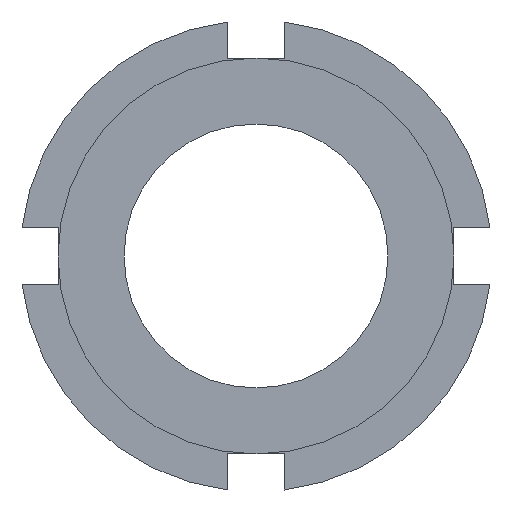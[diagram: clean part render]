
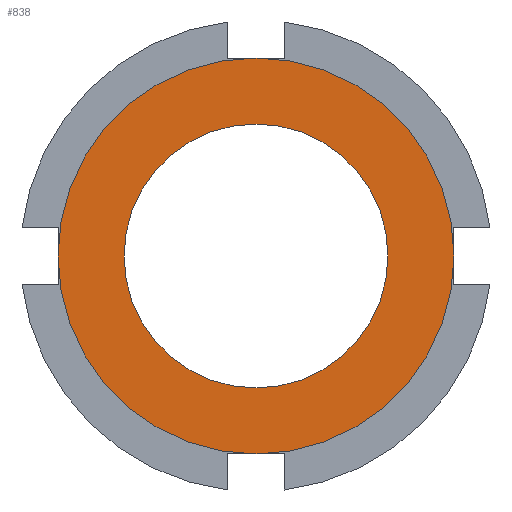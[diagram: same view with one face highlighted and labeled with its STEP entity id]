
A CAD part, left-side view. The second image highlights one B-rep face of the part: STEP entity #838.
In plain terms, the highlighted planar face has unit normal (-1, 0, 0).
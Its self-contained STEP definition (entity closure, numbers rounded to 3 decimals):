
#20 = ORIENTED_EDGE ( 'NONE', *, *, #238, .T. ) ;
#48 = VERTEX_POINT ( 'NONE', #440 ) ;
#49 = EDGE_LOOP ( 'NONE', ( #20, #789 ) ) ;
#81 = CIRCLE ( 'NONE', #82, 7. ) ;
#82 = AXIS2_PLACEMENT_3D ( 'NONE', #83, #84, #85 ) ;
#83 = CARTESIAN_POINT ( 'NONE',  ( 0., 0., 0. ) ) ;
#84 = DIRECTION ( 'NONE',  ( -1., 0., 0. ) ) ;
#85 = DIRECTION ( 'NONE',  ( 0., 0., 1. ) ) ;
#155 = FACE_BOUND ( 'NONE', #826, .T. ) ;
#156 = FACE_OUTER_BOUND ( 'NONE', #49, .T. ) ;
#157 = PLANE ( 'NONE',  #158 ) ;
#158 = AXIS2_PLACEMENT_3D ( 'NONE', #159, #160, #163 ) ;
#159 = CARTESIAN_POINT ( 'NONE',  ( 0., 7., 0. ) ) ;
#160 = DIRECTION ( 'NONE',  ( 1., 0., 0. ) ) ;
#163 = DIRECTION ( 'NONE',  ( 0., 0., -1. ) ) ;
#217 = CIRCLE ( 'NONE', #222, 7. ) ;
#222 = AXIS2_PLACEMENT_3D ( 'NONE', #223, #224, #225 ) ;
#223 = CARTESIAN_POINT ( 'NONE',  ( 0., 0., 0. ) ) ;
#224 = DIRECTION ( 'NONE',  ( -1., 0., 0. ) ) ;
#225 = DIRECTION ( 'NONE',  ( 0., 0., 1. ) ) ;
#238 = EDGE_CURVE ( 'NONE', #48, #757, #555, .T. ) ;
#256 = ORIENTED_EDGE ( 'NONE', *, *, #469, .F. ) ;
#257 = VERTEX_POINT ( 'NONE', #567 ) ;
#387 = CIRCLE ( 'NONE', #388, 10.5 ) ;
#388 = AXIS2_PLACEMENT_3D ( 'NONE', #389, #390, #391 ) ;
#389 = CARTESIAN_POINT ( 'NONE',  ( 0., 0., 0. ) ) ;
#390 = DIRECTION ( 'NONE',  ( -1., 0., 0. ) ) ;
#391 = DIRECTION ( 'NONE',  ( 0., 0., 1. ) ) ;
#414 = CARTESIAN_POINT ( 'NONE',  ( 0., 0., -10.5 ) ) ;
#440 = CARTESIAN_POINT ( 'NONE',  ( 0., 0., 10.5 ) ) ;
#469 = EDGE_CURVE ( 'NONE', #787, #257, #81, .T. ) ;
#508 = CARTESIAN_POINT ( 'NONE',  ( 0., 0., -7. ) ) ;
#555 = CIRCLE ( 'NONE', #556, 10.5 ) ;
#556 = AXIS2_PLACEMENT_3D ( 'NONE', #557, #558, #559 ) ;
#557 = CARTESIAN_POINT ( 'NONE',  ( 0., 0., 0. ) ) ;
#558 = DIRECTION ( 'NONE',  ( -1., 0., 0. ) ) ;
#559 = DIRECTION ( 'NONE',  ( 0., 0., 1. ) ) ;
#567 = CARTESIAN_POINT ( 'NONE',  ( 0., 0., 7. ) ) ;
#710 = EDGE_CURVE ( 'NONE', #257, #787, #217, .T. ) ;
#757 = VERTEX_POINT ( 'NONE', #414 ) ;
#760 = ORIENTED_EDGE ( 'NONE', *, *, #710, .F. ) ;
#787 = VERTEX_POINT ( 'NONE', #508 ) ;
#789 = ORIENTED_EDGE ( 'NONE', *, *, #859, .T. ) ;
#826 = EDGE_LOOP ( 'NONE', ( #760, #256 ) ) ;
#838 = ADVANCED_FACE ( 'NONE', ( #155, #156 ), #157, .F. ) ;
#859 = EDGE_CURVE ( 'NONE', #757, #48, #387, .T. ) ;
